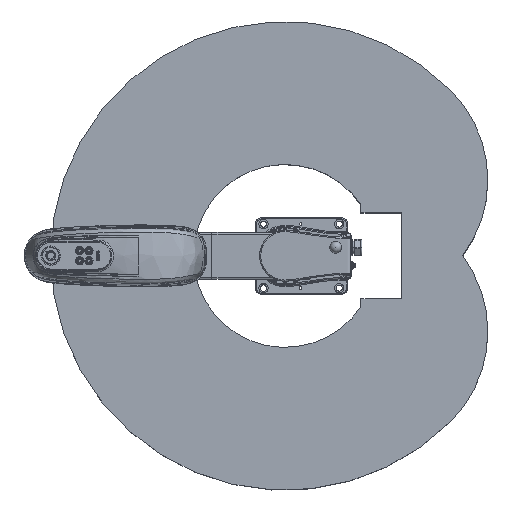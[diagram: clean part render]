
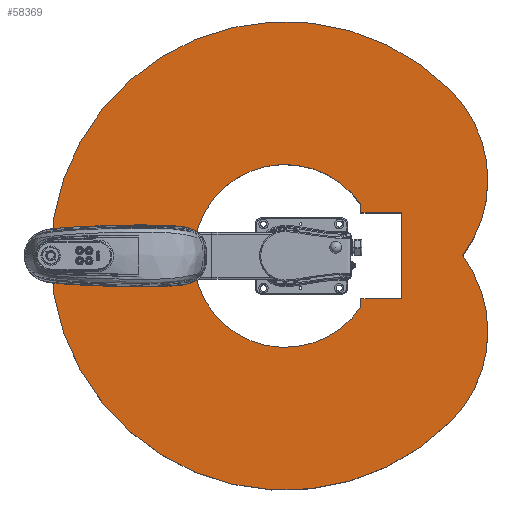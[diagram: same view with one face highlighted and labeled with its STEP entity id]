
A CAD part, top view. The second image highlights one B-rep face of the part: STEP entity #58369.
In plain terms, the highlighted planar face has unit normal (0, 0, 1) as drawn and (0, 1, 0) by its records, which use the part's own axes.
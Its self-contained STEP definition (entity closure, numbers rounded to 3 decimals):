
#11190 = VERTEX_POINT ( 'NONE', #178917 ) ;
#11572 = VERTEX_POINT ( 'NONE', #179053 ) ;
#11592 = VERTEX_POINT ( 'NONE', #179059 ) ;
#11604 = VERTEX_POINT ( 'NONE', #179061 ) ;
#11809 = VERTEX_POINT ( 'NONE', #179153 ) ;
#11815 = VERTEX_POINT ( 'NONE', #179163 ) ;
#11855 = VERTEX_POINT ( 'NONE', #179177 ) ;
#11885 = VERTEX_POINT ( 'NONE', #179193 ) ;
#11905 = VERTEX_POINT ( 'NONE', #179207 ) ;
#12035 = VERTEX_POINT ( 'NONE', #179261 ) ;
#12077 = VERTEX_POINT ( 'NONE', #179283 ) ;
#13939 = EDGE_LOOP ( 'NONE', ( #26717, #26713, #26722, #26726, #26730, #26729, #26755 ) ) ;
#14004 = EDGE_LOOP ( 'NONE', ( #26664, #26657, #26690, #26682 ) ) ;
#26657 = ORIENTED_EDGE ( 'NONE', *, *, #67540, .T. ) ;
#26664 = ORIENTED_EDGE ( 'NONE', *, *, #67531, .T. ) ;
#26682 = ORIENTED_EDGE ( 'NONE', *, *, #67530, .T. ) ;
#26690 = ORIENTED_EDGE ( 'NONE', *, *, #67542, .T. ) ;
#26713 = ORIENTED_EDGE ( 'NONE', *, *, #67529, .F. ) ;
#26717 = ORIENTED_EDGE ( 'NONE', *, *, #67544, .F. ) ;
#26722 = ORIENTED_EDGE ( 'NONE', *, *, #67533, .F. ) ;
#26726 = ORIENTED_EDGE ( 'NONE', *, *, #67538, .F. ) ;
#26729 = ORIENTED_EDGE ( 'NONE', *, *, #67532, .F. ) ;
#26730 = ORIENTED_EDGE ( 'NONE', *, *, #67526, .F. ) ;
#26755 = ORIENTED_EDGE ( 'NONE', *, *, #67519, .F. ) ;
#53951 = AXIS2_PLACEMENT_3D ( 'NONE', #200238, #200239, #200240 ) ;
#53953 = VECTOR ( 'NONE', #200241, 1000. ) ;
#53954 = AXIS2_PLACEMENT_3D ( 'NONE', #200234, #200235, #200236 ) ;
#53958 = CIRCLE ( 'NONE', #53951, 600. ) ;
#53960 = AXIS2_PLACEMENT_3D ( 'NONE', #200229, #200230, #200231 ) ;
#53962 = CIRCLE ( 'NONE', #53954, 600. ) ;
#53968 = CIRCLE ( 'NONE', #53960, 234.211 ) ;
#53970 = AXIS2_PLACEMENT_3D ( 'NONE', #200220, #200221, #200222 ) ;
#53975 = CIRCLE ( 'NONE', #53970, 234.211 ) ;
#53976 = AXIS2_PLACEMENT_3D ( 'NONE', #200216, #200217, #200218 ) ;
#53978 = VECTOR ( 'NONE', #200219, 1000. ) ;
#53980 = AXIS2_PLACEMENT_3D ( 'NONE', #200213, #200214, #200215 ) ;
#53985 = CIRCLE ( 'NONE', #53980, 325. ) ;
#53987 = CIRCLE ( 'NONE', #53976, 325. ) ;
#53989 = VECTOR ( 'NONE', #200210, 1000. ) ;
#53998 = VECTOR ( 'NONE', #200205, 1000. ) ;
#54007 = VECTOR ( 'NONE', #200192, 1000. ) ;
#58369 = ADVANCED_FACE ( 'NONE', ( #114777, #114767 ), #114780, .T. ) ;
#67519 = EDGE_CURVE ( 'NONE', #11855, #12035, #200186, .T. ) ;
#67526 = EDGE_CURVE ( 'NONE', #11885, #11809, #200200, .T. ) ;
#67529 = EDGE_CURVE ( 'NONE', #12077, #11905, #200206, .T. ) ;
#67530 = EDGE_CURVE ( 'NONE', #11815, #11572, #53985, .T. ) ;
#67531 = EDGE_CURVE ( 'NONE', #11572, #11604, #53987, .T. ) ;
#67532 = EDGE_CURVE ( 'NONE', #12035, #11885, #200212, .T. ) ;
#67533 = EDGE_CURVE ( 'NONE', #11592, #12077, #53975, .T. ) ;
#67538 = EDGE_CURVE ( 'NONE', #11809, #11592, #53968, .T. ) ;
#67540 = EDGE_CURVE ( 'NONE', #11604, #11190, #53962, .T. ) ;
#67542 = EDGE_CURVE ( 'NONE', #11190, #11815, #53958, .T. ) ;
#67544 = EDGE_CURVE ( 'NONE', #11905, #11855, #200232, .T. ) ;
#114767 = FACE_BOUND ( 'NONE', #13939, .T. ) ;
#114773 = DIRECTION ( 'NONE',  ( 0., 1., 0. ) ) ;
#114776 = CARTESIAN_POINT ( 'NONE',  ( 97.227, 200., 97.227 ) ) ;
#114777 = FACE_OUTER_BOUND ( 'NONE', #14004, .T. ) ;
#114780 = PLANE ( 'NONE',  #183844 ) ;
#114784 = DIRECTION ( 'NONE',  ( 0., 0., 1. ) ) ;
#178917 = CARTESIAN_POINT ( 'NONE',  ( 0., 200., -600. ) ) ;
#179053 = CARTESIAN_POINT ( 'NONE',  ( 0., 200., 454.863 ) ) ;
#179059 = CARTESIAN_POINT ( 'NONE',  ( 0., 200., -234.211 ) ) ;
#179061 = CARTESIAN_POINT ( 'NONE',  ( 424.264, 200., 424.264 ) ) ;
#179153 = CARTESIAN_POINT ( 'NONE',  ( 130.546, 200., 194.454 ) ) ;
#179163 = CARTESIAN_POINT ( 'NONE',  ( -424.264, 200., 424.264 ) ) ;
#179177 = CARTESIAN_POINT ( 'NONE',  ( -110., 200., 299. ) ) ;
#179193 = CARTESIAN_POINT ( 'NONE',  ( 110., 200., 194.454 ) ) ;
#179207 = CARTESIAN_POINT ( 'NONE',  ( -110., 200., 194.454 ) ) ;
#179261 = CARTESIAN_POINT ( 'NONE',  ( 110., 200., 299. ) ) ;
#179283 = CARTESIAN_POINT ( 'NONE',  ( -130.546, 200., 194.454 ) ) ;
#183844 = AXIS2_PLACEMENT_3D ( 'NONE', #114776, #114773, #114784 ) ;
#200186 = LINE ( 'NONE', #200191, #54007 ) ;
#200191 = CARTESIAN_POINT ( 'NONE',  ( -110., 200., 299. ) ) ;
#200192 = DIRECTION ( 'NONE',  ( 1., 0., 0. ) ) ;
#200196 = CARTESIAN_POINT ( 'NONE',  ( 130.546, 200., 194.454 ) ) ;
#200200 = LINE ( 'NONE', #200196, #53998 ) ;
#200204 = CARTESIAN_POINT ( 'NONE',  ( -110., 200., 194.454 ) ) ;
#200205 = DIRECTION ( 'NONE',  ( 1., 0., 0. ) ) ;
#200206 = LINE ( 'NONE', #200204, #53989 ) ;
#200210 = DIRECTION ( 'NONE',  ( 1., 0., 0. ) ) ;
#200211 = CARTESIAN_POINT ( 'NONE',  ( 110., 200., 194.454 ) ) ;
#200212 = LINE ( 'NONE', #200211, #53978 ) ;
#200213 = CARTESIAN_POINT ( 'NONE',  ( -194.454, 200., 194.454 ) ) ;
#200214 = DIRECTION ( 'NONE',  ( 0., 1., 0. ) ) ;
#200215 = DIRECTION ( 'NONE',  ( 0., 0., 1. ) ) ;
#200216 = CARTESIAN_POINT ( 'NONE',  ( 194.454, 200., 194.454 ) ) ;
#200217 = DIRECTION ( 'NONE',  ( 0., 1., 0. ) ) ;
#200218 = DIRECTION ( 'NONE',  ( 0., 0., 1. ) ) ;
#200219 = DIRECTION ( 'NONE',  ( 0., 0., -1. ) ) ;
#200220 = CARTESIAN_POINT ( 'NONE',  ( 0., 200., 0. ) ) ;
#200221 = DIRECTION ( 'NONE',  ( 0., 1., 0. ) ) ;
#200222 = DIRECTION ( 'NONE',  ( 0., 0., 1. ) ) ;
#200229 = CARTESIAN_POINT ( 'NONE',  ( 0., 200., 0. ) ) ;
#200230 = DIRECTION ( 'NONE',  ( 0., 1., 0. ) ) ;
#200231 = DIRECTION ( 'NONE',  ( 0., 0., 1. ) ) ;
#200232 = LINE ( 'NONE', #200233, #53953 ) ;
#200233 = CARTESIAN_POINT ( 'NONE',  ( -110., 200., 194.454 ) ) ;
#200234 = CARTESIAN_POINT ( 'NONE',  ( 0., 200., 0. ) ) ;
#200235 = DIRECTION ( 'NONE',  ( 0., 1., 0. ) ) ;
#200236 = DIRECTION ( 'NONE',  ( 0., 0., 1. ) ) ;
#200238 = CARTESIAN_POINT ( 'NONE',  ( 0., 200., 0. ) ) ;
#200239 = DIRECTION ( 'NONE',  ( 0., 1., 0. ) ) ;
#200240 = DIRECTION ( 'NONE',  ( 0., 0., 1. ) ) ;
#200241 = DIRECTION ( 'NONE',  ( 0., 0., 1. ) ) ;
